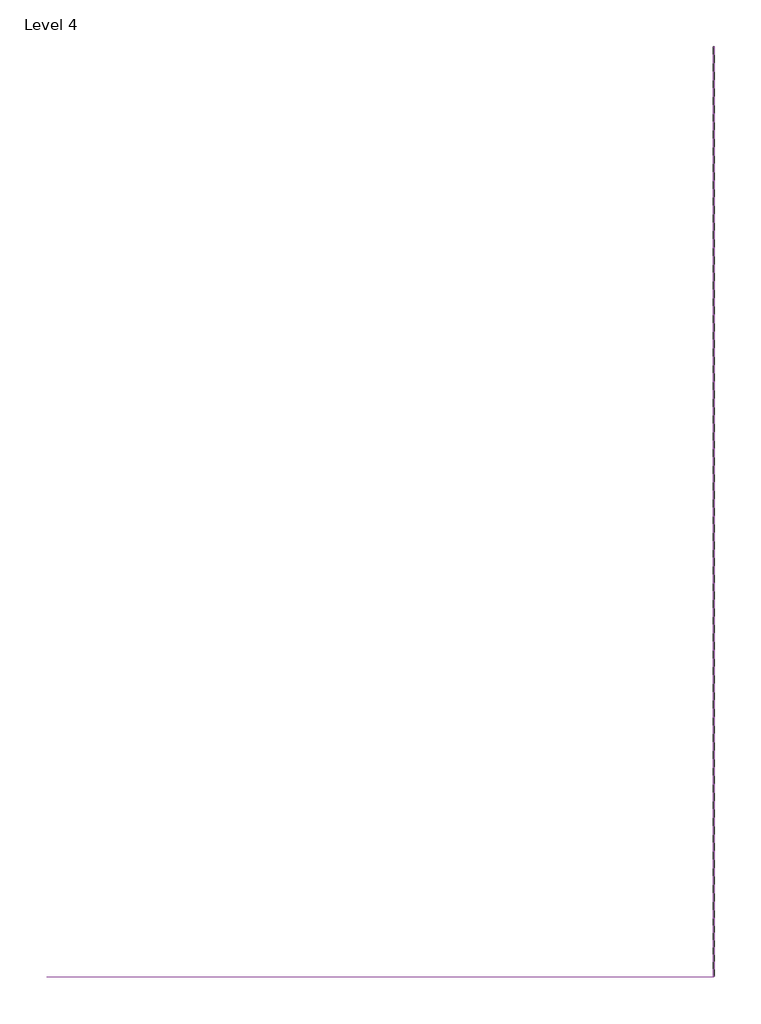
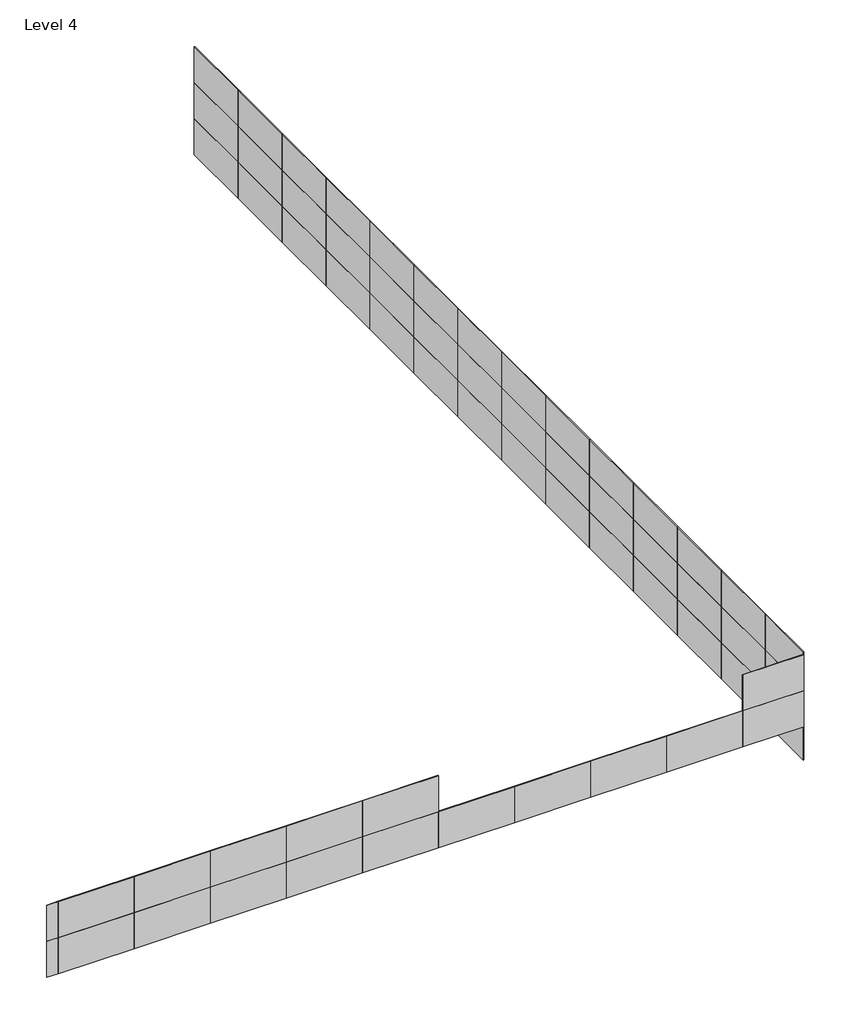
# One storey, incomplete: 60 plates.
"""IFC4 building model written with IfcOpenShell, lengths in millimetres."""

from ifc_helpers import new_model, si_unit, origin, place, context, project, spatial, transform, mapped, element, save
from components import system_panel_glazed_0faff7bc, system_panel_glazed_3beef6a9, system_panel_glazed_a610d18d, system_panel_glazed_27cb410f

model = new_model("IFC4")

# Units and contexts
model_context = context("Model", 3, world=origin())
ifc_project = project(units=[si_unit("LENGTHUNIT", "METRE", prefix="MILLI")], contexts=[model_context])

# Site, building, storey
site = spatial("IfcSite", under=ifc_project)
building = spatial("IfcBuilding", under=site)
storey = spatial("IfcBuildingStorey", under=building, Name="Level 4", Elevation=13868.4)

# Plates
placement = place(None, origin())
system_panel_glazed_shape = system_panel_glazed_0faff7bc(model_context)
element("IfcPlate", 1, ObjectType="System Panel : Glazed", at=placement, inside=storey, context=model_context, shape_type="MappedRepresentation", body=[
    mapped(system_panel_glazed_shape, transform((8772.0832196, -17542.9691989, 15328.4959124), x_axis=(-1.0, 0.0, 0.0), y_axis=(0.0, -1.0, 0.0), z_axis=(0.0, 0.0, 1.0))),
])
element("IfcPlate", 2, ObjectType="System Panel : Glazed", at=placement, inside=storey, context=model_context, shape_type="MappedRepresentation", body=[
    mapped(system_panel_glazed_shape, transform((5724.0832196, -17542.9691989, 15328.4959124), x_axis=(-1.0, 0.0, 0.0), y_axis=(0.0, -1.0, 0.0), z_axis=(0.0, 0.0, 1.0))),
])
element("IfcPlate", 3, ObjectType="System Panel : Glazed", at=placement, inside=storey, context=model_context, shape_type="MappedRepresentation", body=[
    mapped(system_panel_glazed_shape, transform((2676.0832196, -17542.9691989, 15328.4959124), x_axis=(-1.0, 0.0, 0.0), y_axis=(0.0, -1.0, 0.0), z_axis=(0.0, 0.0, 1.0))),
])
element("IfcPlate", 4, ObjectType="System Panel : Glazed", at=placement, inside=storey, context=model_context, shape_type="MappedRepresentation", body=[
    mapped(system_panel_glazed_shape, transform((-371.9167804, -17542.9691989, 15328.4959124), x_axis=(-1.0, 0.0, 0.0), y_axis=(0.0, -1.0, 0.0), z_axis=(0.0, 0.0, 1.0))),
])
element("IfcPlate", 5, ObjectType="System Panel : Glazed", at=placement, inside=storey, context=model_context, shape_type="MappedRepresentation", body=[
    mapped(system_panel_glazed_shape, transform((-3419.9167804, -17542.9691989, 15328.4959124), x_axis=(-1.0, 0.0, 0.0), y_axis=(0.0, -1.0, 0.0), z_axis=(0.0, 0.0, 1.0))),
])
element("IfcPlate", 6, ObjectType="System Panel : Glazed", at=placement, inside=storey, context=model_context, shape_type="MappedRepresentation", body=[
    mapped(system_panel_glazed_shape, transform((-6467.9167804, -17542.9691989, 15328.4959124), x_axis=(-1.0, 0.0, 0.0), y_axis=(0.0, -1.0, 0.0), z_axis=(0.0, 0.0, 1.0))),
])
element("IfcPlate", 7, ObjectType="System Panel : Glazed", at=placement, inside=storey, context=model_context, shape_type="MappedRepresentation", body=[
    mapped(system_panel_glazed_shape, transform((-9515.9167804, -17542.9691989, 15328.4959124), x_axis=(-1.0, 0.0, 0.0), y_axis=(0.0, -1.0, 0.0), z_axis=(0.0, 0.0, 1.0))),
])
element("IfcPlate", 8, ObjectType="System Panel : Glazed", at=placement, inside=storey, context=model_context, shape_type="MappedRepresentation", body=[
    mapped(system_panel_glazed_shape, transform((-12563.9167804, -17542.9691989, 15328.4959124), x_axis=(-1.0, 0.0, 0.0), y_axis=(0.0, -1.0, 0.0), z_axis=(0.0, 0.0, 1.0))),
])
element("IfcPlate", 9, ObjectType="System Panel : Glazed", at=placement, inside=storey, context=model_context, shape_type="MappedRepresentation", body=[
    mapped(system_panel_glazed_shape, transform((-15611.9167804, -17542.9691989, 15328.4959124), x_axis=(-1.0, 0.0, 0.0), y_axis=(0.0, -1.0, 0.0), z_axis=(0.0, 0.0, 1.0))),
])
element("IfcPlate", 10, ObjectType="System Panel : Glazed", at=placement, inside=storey, context=model_context, shape_type="MappedRepresentation", body=[
    mapped(system_panel_glazed_shape, transform((-3419.9167804, -17542.9691989, 16852.4959124), x_axis=(-1.0, 0.0, 0.0), y_axis=(0.0, -1.0, 0.0), z_axis=(0.0, 0.0, 1.0))),
])
element("IfcPlate", 11, ObjectType="System Panel : Glazed", at=placement, inside=storey, context=model_context, shape_type="MappedRepresentation", body=[
    mapped(system_panel_glazed_shape, transform((-6467.9167804, -17542.9691989, 16852.4959124), x_axis=(-1.0, 0.0, 0.0), y_axis=(0.0, -1.0, 0.0), z_axis=(0.0, 0.0, 1.0))),
])
element("IfcPlate", 12, ObjectType="System Panel : Glazed", at=placement, inside=storey, context=model_context, shape_type="MappedRepresentation", body=[
    mapped(system_panel_glazed_shape, transform((-9515.9167804, -17542.9691989, 16852.4959124), x_axis=(-1.0, 0.0, 0.0), y_axis=(0.0, -1.0, 0.0), z_axis=(0.0, 0.0, 1.0))),
])
element("IfcPlate", 13, ObjectType="System Panel : Glazed", at=placement, inside=storey, context=model_context, shape_type="MappedRepresentation", body=[
    mapped(system_panel_glazed_shape, transform((-12563.9167804, -17542.9691989, 16852.4959124), x_axis=(-1.0, 0.0, 0.0), y_axis=(0.0, -1.0, 0.0), z_axis=(0.0, 0.0, 1.0))),
])
element("IfcPlate", 14, ObjectType="System Panel : Glazed", at=placement, inside=storey, context=model_context, shape_type="MappedRepresentation", body=[
    mapped(system_panel_glazed_shape, transform((-15611.9167804, -17542.9691989, 16852.4959124), x_axis=(-1.0, 0.0, 0.0), y_axis=(0.0, -1.0, 0.0), z_axis=(0.0, 0.0, 1.0))),
])
element("IfcPlate", 15, ObjectType="System Panel : Glazed", at=placement, inside=storey, context=model_context, shape_type="MappedRepresentation", body=[
    mapped(system_panel_glazed_shape, transform((12734.4832196, 23196.5063873, 13880.385767), x_axis=(0.0, -1.0, 0.0), y_axis=(1.0, 0.0, 0.0), z_axis=(0.0, 0.0, 1.0))),
])
element("IfcPlate", 16, ObjectType="System Panel : Glazed", at=placement, inside=storey, context=model_context, shape_type="MappedRepresentation", body=[
    mapped(system_panel_glazed_shape, transform((12734.4832196, 20148.5063873, 13880.385767), x_axis=(0.0, -1.0, 0.0), y_axis=(1.0, 0.0, 0.0), z_axis=(0.0, 0.0, 1.0))),
])
element("IfcPlate", 17, ObjectType="System Panel : Glazed", at=placement, inside=storey, context=model_context, shape_type="MappedRepresentation", body=[
    mapped(system_panel_glazed_shape, transform((12734.4832196, 17100.5063873, 13880.385767), x_axis=(0.0, -1.0, 0.0), y_axis=(1.0, 0.0, 0.0), z_axis=(0.0, 0.0, 1.0))),
])
element("IfcPlate", 18, ObjectType="System Panel : Glazed", at=placement, inside=storey, context=model_context, shape_type="MappedRepresentation", body=[
    mapped(system_panel_glazed_shape, transform((12734.4832196, 14052.5063873, 13880.385767), x_axis=(0.0, -1.0, 0.0), y_axis=(1.0, 0.0, 0.0), z_axis=(0.0, 0.0, 1.0))),
])
element("IfcPlate", 19, ObjectType="System Panel : Glazed", at=placement, inside=storey, context=model_context, shape_type="MappedRepresentation", body=[
    mapped(system_panel_glazed_shape, transform((12734.4832196, 11004.5063873, 13880.385767), x_axis=(0.0, -1.0, 0.0), y_axis=(1.0, 0.0, 0.0), z_axis=(0.0, 0.0, 1.0))),
])
element("IfcPlate", 20, ObjectType="System Panel : Glazed", at=placement, inside=storey, context=model_context, shape_type="MappedRepresentation", body=[
    mapped(system_panel_glazed_shape, transform((12734.4832196, 7956.5063873, 13880.385767), x_axis=(0.0, -1.0, 0.0), y_axis=(1.0, 0.0, 0.0), z_axis=(0.0, 0.0, 1.0))),
])
element("IfcPlate", 21, ObjectType="System Panel : Glazed", at=placement, inside=storey, context=model_context, shape_type="MappedRepresentation", body=[
    mapped(system_panel_glazed_shape, transform((12734.4832196, 4908.5063873, 13880.385767), x_axis=(0.0, -1.0, 0.0), y_axis=(1.0, 0.0, 0.0), z_axis=(0.0, 0.0, 1.0))),
])
element("IfcPlate", 22, ObjectType="System Panel : Glazed", at=placement, inside=storey, context=model_context, shape_type="MappedRepresentation", body=[
    mapped(system_panel_glazed_shape, transform((12734.4832196, 1860.5063873, 13880.385767), x_axis=(0.0, -1.0, 0.0), y_axis=(1.0, 0.0, 0.0), z_axis=(0.0, 0.0, 1.0))),
])
element("IfcPlate", 23, ObjectType="System Panel : Glazed", at=placement, inside=storey, context=model_context, shape_type="MappedRepresentation", body=[
    mapped(system_panel_glazed_shape, transform((12734.4832196, -1187.4936127, 13880.385767), x_axis=(0.0, -1.0, 0.0), y_axis=(1.0, 0.0, 0.0), z_axis=(0.0, 0.0, 1.0))),
])
element("IfcPlate", 24, ObjectType="System Panel : Glazed", at=placement, inside=storey, context=model_context, shape_type="MappedRepresentation", body=[
    mapped(system_panel_glazed_shape, transform((12734.4832196, -4235.4936127, 13880.385767), x_axis=(0.0, -1.0, 0.0), y_axis=(1.0, 0.0, 0.0), z_axis=(0.0, 0.0, 1.0))),
])
element("IfcPlate", 25, ObjectType="System Panel : Glazed", at=placement, inside=storey, context=model_context, shape_type="MappedRepresentation", body=[
    mapped(system_panel_glazed_shape, transform((12734.4832196, -7283.4936127, 13880.385767), x_axis=(0.0, -1.0, 0.0), y_axis=(1.0, 0.0, 0.0), z_axis=(0.0, 0.0, 1.0))),
])
element("IfcPlate", 26, ObjectType="System Panel : Glazed", at=placement, inside=storey, context=model_context, shape_type="MappedRepresentation", body=[
    mapped(system_panel_glazed_shape, transform((12734.4832196, -10331.4936127, 13880.385767), x_axis=(0.0, -1.0, 0.0), y_axis=(1.0, 0.0, 0.0), z_axis=(0.0, 0.0, 1.0))),
])
element("IfcPlate", 27, ObjectType="System Panel : Glazed", at=placement, inside=storey, context=model_context, shape_type="MappedRepresentation", body=[
    mapped(system_panel_glazed_shape, transform((12734.4832196, -13379.4936127, 13880.385767), x_axis=(0.0, -1.0, 0.0), y_axis=(1.0, 0.0, 0.0), z_axis=(0.0, 0.0, 1.0))),
])
element("IfcPlate", 28, ObjectType="System Panel : Glazed", at=placement, inside=storey, context=model_context, shape_type="MappedRepresentation", body=[
    mapped(system_panel_glazed_shape, transform((12734.4832196, 23196.5063873, 15404.385767), x_axis=(0.0, -1.0, 0.0), y_axis=(1.0, 0.0, 0.0), z_axis=(0.0, 0.0, 1.0))),
])
element("IfcPlate", 29, ObjectType="System Panel : Glazed", at=placement, inside=storey, context=model_context, shape_type="MappedRepresentation", body=[
    mapped(system_panel_glazed_shape, transform((12734.4832196, 20148.5063873, 15404.385767), x_axis=(0.0, -1.0, 0.0), y_axis=(1.0, 0.0, 0.0), z_axis=(0.0, 0.0, 1.0))),
])
element("IfcPlate", 30, ObjectType="System Panel : Glazed", at=placement, inside=storey, context=model_context, shape_type="MappedRepresentation", body=[
    mapped(system_panel_glazed_shape, transform((12734.4832196, 17100.5063873, 15404.385767), x_axis=(0.0, -1.0, 0.0), y_axis=(1.0, 0.0, 0.0), z_axis=(0.0, 0.0, 1.0))),
])
element("IfcPlate", 31, ObjectType="System Panel : Glazed", at=placement, inside=storey, context=model_context, shape_type="MappedRepresentation", body=[
    mapped(system_panel_glazed_shape, transform((12734.4832196, 14052.5063873, 15404.385767), x_axis=(0.0, -1.0, 0.0), y_axis=(1.0, 0.0, 0.0), z_axis=(0.0, 0.0, 1.0))),
])
element("IfcPlate", 32, ObjectType="System Panel : Glazed", at=placement, inside=storey, context=model_context, shape_type="MappedRepresentation", body=[
    mapped(system_panel_glazed_shape, transform((12734.4832196, 11004.5063873, 15404.385767), x_axis=(0.0, -1.0, 0.0), y_axis=(1.0, 0.0, 0.0), z_axis=(0.0, 0.0, 1.0))),
])
element("IfcPlate", 33, ObjectType="System Panel : Glazed", at=placement, inside=storey, context=model_context, shape_type="MappedRepresentation", body=[
    mapped(system_panel_glazed_shape, transform((12734.4832196, 7956.5063873, 15404.385767), x_axis=(0.0, -1.0, 0.0), y_axis=(1.0, 0.0, 0.0), z_axis=(0.0, 0.0, 1.0))),
])
element("IfcPlate", 34, ObjectType="System Panel : Glazed", at=placement, inside=storey, context=model_context, shape_type="MappedRepresentation", body=[
    mapped(system_panel_glazed_shape, transform((12734.4832196, 4908.5063873, 15404.385767), x_axis=(0.0, -1.0, 0.0), y_axis=(1.0, 0.0, 0.0), z_axis=(0.0, 0.0, 1.0))),
])
element("IfcPlate", 35, ObjectType="System Panel : Glazed", at=placement, inside=storey, context=model_context, shape_type="MappedRepresentation", body=[
    mapped(system_panel_glazed_shape, transform((12734.4832196, 1860.5063873, 15404.385767), x_axis=(0.0, -1.0, 0.0), y_axis=(1.0, 0.0, 0.0), z_axis=(0.0, 0.0, 1.0))),
])
element("IfcPlate", 36, ObjectType="System Panel : Glazed", at=placement, inside=storey, context=model_context, shape_type="MappedRepresentation", body=[
    mapped(system_panel_glazed_shape, transform((12734.4832196, -1187.4936127, 15404.385767), x_axis=(0.0, -1.0, 0.0), y_axis=(1.0, 0.0, 0.0), z_axis=(0.0, 0.0, 1.0))),
])
element("IfcPlate", 37, ObjectType="System Panel : Glazed", at=placement, inside=storey, context=model_context, shape_type="MappedRepresentation", body=[
    mapped(system_panel_glazed_shape, transform((12734.4832196, -4235.4936127, 15404.385767), x_axis=(0.0, -1.0, 0.0), y_axis=(1.0, 0.0, 0.0), z_axis=(0.0, 0.0, 1.0))),
])
element("IfcPlate", 38, ObjectType="System Panel : Glazed", at=placement, inside=storey, context=model_context, shape_type="MappedRepresentation", body=[
    mapped(system_panel_glazed_shape, transform((12734.4832196, -7283.4936127, 15404.385767), x_axis=(0.0, -1.0, 0.0), y_axis=(1.0, 0.0, 0.0), z_axis=(0.0, 0.0, 1.0))),
])
element("IfcPlate", 39, ObjectType="System Panel : Glazed", at=placement, inside=storey, context=model_context, shape_type="MappedRepresentation", body=[
    mapped(system_panel_glazed_shape, transform((12734.4832196, -10331.4936127, 15404.385767), x_axis=(0.0, -1.0, 0.0), y_axis=(1.0, 0.0, 0.0), z_axis=(0.0, 0.0, 1.0))),
])
element("IfcPlate", 40, ObjectType="System Panel : Glazed", at=placement, inside=storey, context=model_context, shape_type="MappedRepresentation", body=[
    mapped(system_panel_glazed_shape, transform((12734.4832196, -13379.4936127, 15404.385767), x_axis=(0.0, -1.0, 0.0), y_axis=(1.0, 0.0, 0.0), z_axis=(0.0, 0.0, 1.0))),
])
element("IfcPlate", 41, ObjectType="System Panel : Glazed", at=placement, inside=storey, context=model_context, shape_type="MappedRepresentation", body=[
    mapped(system_panel_glazed_shape, transform((12734.4832196, 23196.5063873, 16928.385767), x_axis=(0.0, -1.0, 0.0), y_axis=(1.0, 0.0, 0.0), z_axis=(0.0, 0.0, 1.0))),
])
element("IfcPlate", 42, ObjectType="System Panel : Glazed", at=placement, inside=storey, context=model_context, shape_type="MappedRepresentation", body=[
    mapped(system_panel_glazed_shape, transform((12734.4832196, 20148.5063873, 16928.385767), x_axis=(0.0, -1.0, 0.0), y_axis=(1.0, 0.0, 0.0), z_axis=(0.0, 0.0, 1.0))),
])
element("IfcPlate", 43, ObjectType="System Panel : Glazed", at=placement, inside=storey, context=model_context, shape_type="MappedRepresentation", body=[
    mapped(system_panel_glazed_shape, transform((12734.4832196, 17100.5063873, 16928.385767), x_axis=(0.0, -1.0, 0.0), y_axis=(1.0, 0.0, 0.0), z_axis=(0.0, 0.0, 1.0))),
])
element("IfcPlate", 44, ObjectType="System Panel : Glazed", at=placement, inside=storey, context=model_context, shape_type="MappedRepresentation", body=[
    mapped(system_panel_glazed_shape, transform((12734.4832196, 14052.5063873, 16928.385767), x_axis=(0.0, -1.0, 0.0), y_axis=(1.0, 0.0, 0.0), z_axis=(0.0, 0.0, 1.0))),
])
element("IfcPlate", 45, ObjectType="System Panel : Glazed", at=placement, inside=storey, context=model_context, shape_type="MappedRepresentation", body=[
    mapped(system_panel_glazed_shape, transform((12734.4832196, 11004.5063873, 16928.385767), x_axis=(0.0, -1.0, 0.0), y_axis=(1.0, 0.0, 0.0), z_axis=(0.0, 0.0, 1.0))),
])
element("IfcPlate", 46, ObjectType="System Panel : Glazed", at=placement, inside=storey, context=model_context, shape_type="MappedRepresentation", body=[
    mapped(system_panel_glazed_shape, transform((12734.4832196, 7956.5063873, 16928.385767), x_axis=(0.0, -1.0, 0.0), y_axis=(1.0, 0.0, 0.0), z_axis=(0.0, 0.0, 1.0))),
])
element("IfcPlate", 47, ObjectType="System Panel : Glazed", at=placement, inside=storey, context=model_context, shape_type="MappedRepresentation", body=[
    mapped(system_panel_glazed_shape, transform((12734.4832196, 4908.5063873, 16928.385767), x_axis=(0.0, -1.0, 0.0), y_axis=(1.0, 0.0, 0.0), z_axis=(0.0, 0.0, 1.0))),
])
element("IfcPlate", 48, ObjectType="System Panel : Glazed", at=placement, inside=storey, context=model_context, shape_type="MappedRepresentation", body=[
    mapped(system_panel_glazed_shape, transform((12734.4832196, 1860.5063873, 16928.385767), x_axis=(0.0, -1.0, 0.0), y_axis=(1.0, 0.0, 0.0), z_axis=(0.0, 0.0, 1.0))),
])
element("IfcPlate", 49, ObjectType="System Panel : Glazed", at=placement, inside=storey, context=model_context, shape_type="MappedRepresentation", body=[
    mapped(system_panel_glazed_shape, transform((12734.4832196, -1187.4936127, 16928.385767), x_axis=(0.0, -1.0, 0.0), y_axis=(1.0, 0.0, 0.0), z_axis=(0.0, 0.0, 1.0))),
])
element("IfcPlate", 50, ObjectType="System Panel : Glazed", at=placement, inside=storey, context=model_context, shape_type="MappedRepresentation", body=[
    mapped(system_panel_glazed_shape, transform((12734.4832196, -4235.4936127, 16928.385767), x_axis=(0.0, -1.0, 0.0), y_axis=(1.0, 0.0, 0.0), z_axis=(0.0, 0.0, 1.0))),
])
element("IfcPlate", 51, ObjectType="System Panel : Glazed", at=placement, inside=storey, context=model_context, shape_type="MappedRepresentation", body=[
    mapped(system_panel_glazed_shape, transform((12734.4832196, -7283.4936127, 16928.385767), x_axis=(0.0, -1.0, 0.0), y_axis=(1.0, 0.0, 0.0), z_axis=(0.0, 0.0, 1.0))),
])
element("IfcPlate", 52, ObjectType="System Panel : Glazed", at=placement, inside=storey, context=model_context, shape_type="MappedRepresentation", body=[
    mapped(system_panel_glazed_shape, transform((12734.4832196, -10331.4936127, 16928.385767), x_axis=(0.0, -1.0, 0.0), y_axis=(1.0, 0.0, 0.0), z_axis=(0.0, 0.0, 1.0))),
])
element("IfcPlate", 53, ObjectType="System Panel : Glazed", at=placement, inside=storey, context=model_context, shape_type="MappedRepresentation", body=[
    mapped(system_panel_glazed_shape, transform((12734.4832196, -13379.4936127, 16928.385767), x_axis=(0.0, -1.0, 0.0), y_axis=(1.0, 0.0, 0.0), z_axis=(0.0, 0.0, 1.0))),
])
system_panel_glazed_2_shape = system_panel_glazed_3beef6a9(model_context)
element("IfcPlate", 54, ObjectType="System Panel : Glazed", at=placement, inside=storey, context=model_context, shape_type="MappedRepresentation", body=[
    mapped(system_panel_glazed_2_shape, transform((-17358.5287318, -17542.9691989, 15328.4959124), x_axis=(-1.0, 0.0, 0.0), y_axis=(0.0, -1.0, 0.0), z_axis=(0.0, 0.0, 1.0))),
])
element("IfcPlate", 55, ObjectType="System Panel : Glazed", at=placement, inside=storey, context=model_context, shape_type="MappedRepresentation", body=[
    mapped(system_panel_glazed_2_shape, transform((-17358.5287318, -17542.9691989, 16852.4959124), x_axis=(-1.0, 0.0, 0.0), y_axis=(0.0, -1.0, 0.0), z_axis=(0.0, 0.0, 1.0))),
])
system_panel_glazed_3_shape = system_panel_glazed_a610d18d(model_context)
element("IfcPlate", 56, ObjectType="System Panel : Glazed", at=placement, inside=storey, context=model_context, shape_type="MappedRepresentation", body=[
    mapped(system_panel_glazed_3_shape, transform((11515.2832196, -17542.9691989, 15328.4959124), x_axis=(-1.0, 0.0, 0.0), y_axis=(0.0, -1.0, 0.0), z_axis=(0.0, 0.0, 1.0))),
])
element("IfcPlate", 57, ObjectType="System Panel : Glazed", at=placement, inside=storey, context=model_context, shape_type="MappedRepresentation", body=[
    mapped(system_panel_glazed_3_shape, transform((11515.2832196, -17542.9691989, 16852.4959124), x_axis=(-1.0, 0.0, 0.0), y_axis=(0.0, -1.0, 0.0), z_axis=(0.0, 0.0, 1.0))),
])
system_panel_glazed_4_shape = system_panel_glazed_27cb410f(model_context)
element("IfcPlate", 58, ObjectType="System Panel : Glazed", at=placement, inside=storey, context=model_context, shape_type="MappedRepresentation", body=[
    mapped(system_panel_glazed_4_shape, transform((12734.4832196, -16223.2314058, 13880.385767), x_axis=(0.0, -1.0, 0.0), y_axis=(1.0, 0.0, 0.0), z_axis=(0.0, 0.0, 1.0))),
])
element("IfcPlate", 59, ObjectType="System Panel : Glazed", at=placement, inside=storey, context=model_context, shape_type="MappedRepresentation", body=[
    mapped(system_panel_glazed_4_shape, transform((12734.4832196, -16223.2314058, 15404.385767), x_axis=(0.0, -1.0, 0.0), y_axis=(1.0, 0.0, 0.0), z_axis=(0.0, 0.0, 1.0))),
])
element("IfcPlate", 60, ObjectType="System Panel : Glazed", at=placement, inside=storey, context=model_context, shape_type="MappedRepresentation", body=[
    mapped(system_panel_glazed_4_shape, transform((12734.4832196, -16223.2314058, 16928.385767), x_axis=(0.0, -1.0, 0.0), y_axis=(1.0, 0.0, 0.0), z_axis=(0.0, 0.0, 1.0))),
])

save(model, "model.ifc")
